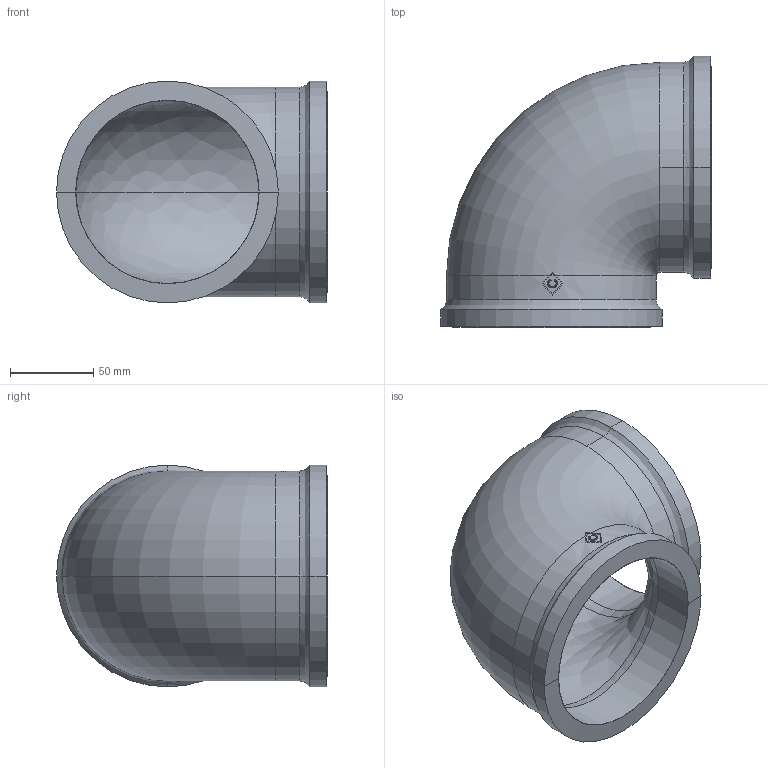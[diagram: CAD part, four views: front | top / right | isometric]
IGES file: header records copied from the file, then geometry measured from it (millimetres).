
Global section: file name: No Iges File Name specified; native system: AutoDesk Inventor R12.0; preprocessor: AutoDesk Inventor Iges Exporter R12.0; date: 20090915.161937; units: millimetre
Bounding box: 163 x 163 x 133.4 mm (x, y, z)
Volume: 471663.5 mm3; surface area: 133404.6 mm2
Topology: 1 solids, 1 shells, 53 faces, 128 edges, 78 vertices
Faces by surface type: bspline 20, plane 12, cylinder 11, torus 4, cone 4, revolution 2
